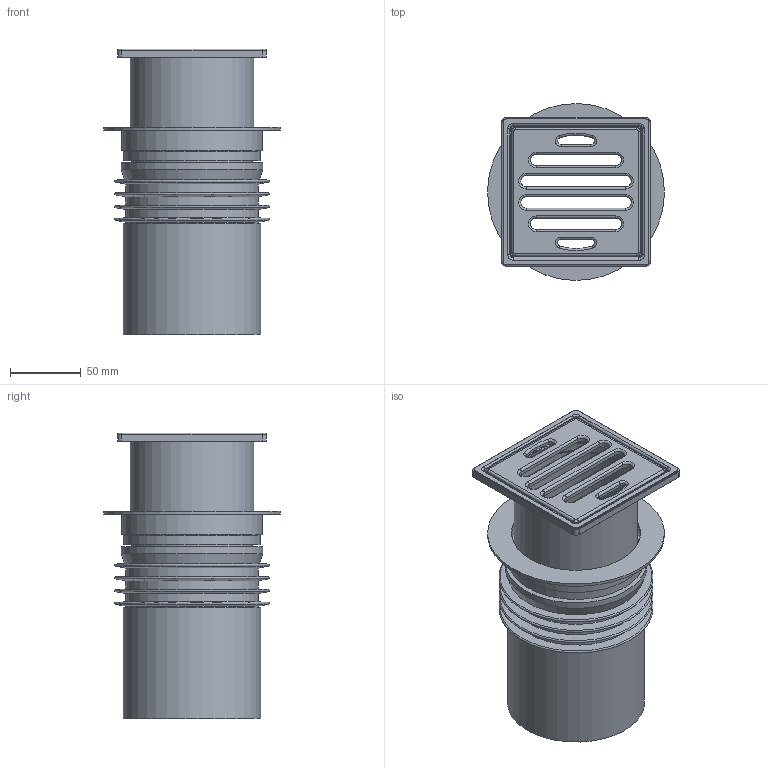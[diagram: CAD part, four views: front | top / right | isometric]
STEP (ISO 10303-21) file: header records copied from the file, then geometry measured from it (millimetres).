
FILE_DESCRIPTION(/* description */ ('3DEXPERIENCE STEP'),/* implementation_level */ '2;1');
FILE_NAME(/* name */ '388060.stp',/* time_stamp */ '2026-03-25T11:23:38+01:00',/* author */ ('none'),/* organization */ ('none'),/* preprocessor_version */ 'ST-DEVELOPER v20.1',/* originating_system */ 'Autodesk Inventor 2026',/* authorisation */ 'none');
FILE_SCHEMA (('AUTOMOTIVE_DESIGN { 1 0 10303 214 3 1 1 }'));
Length unit declared in the file: millimetre
Products named in the file (8): Bodenablauf Varino steck d110; XLB FD Inlet funnel complete_B; XLB FD Extension pipe_C; FD Granting Frame 105x105_C; 814.991.00.0; XLB Plug In Mainbody Comp. D110_0_D; XLB Plug In main body cover_C; XLB Plug In lip seal of D110_E
Assembly tree (7 placements, depth 3):
  Bodenablauf Varino steck d110
    XLB FD Inlet funnel complete_B
      XLB FD Extension pipe_C
      FD Granting Frame 105x105_C
    814.991.00.0
    XLB Plug In Mainbody Comp. D110_0_D
      XLB Plug In main body cover_C
      XLB Plug In lip seal of D110_E
Bounding box: 124.97 x 124.97 x 202 mm (x, y, z)
Volume: 228379.3 mm3; surface area: 232497.5 mm2
Topology: 5 solids, 5 shells, 298 faces, 653 edges, 388 vertices
Faces by surface type: cylinder 115, plane 87, torus 48, bspline 28, cone 20
Full cylindrical faces by diameter (mm): 80.4 x1, 81.6 x1, 82.4 x1, 82.7 x2, 83 x1, 85 x3, 86.4 x1, 87.3 x1, 87.5 x1, 89 x1, 91.2 x2, 92 x1, 93 x1, 93.5 x4, 96 x1, 96.2 x1, 97 x1, 99 x1, 100 x1, 125 x1
Entity records: 9751 total; most frequent: CARTESIAN_POINT 2876, DIRECTION 1499, ORIENTED_EDGE 1306, EDGE_CURVE 653, AXIS2_PLACEMENT_3D 607, VERTEX_POINT 388, EDGE_LOOP 341, CIRCLE 317
